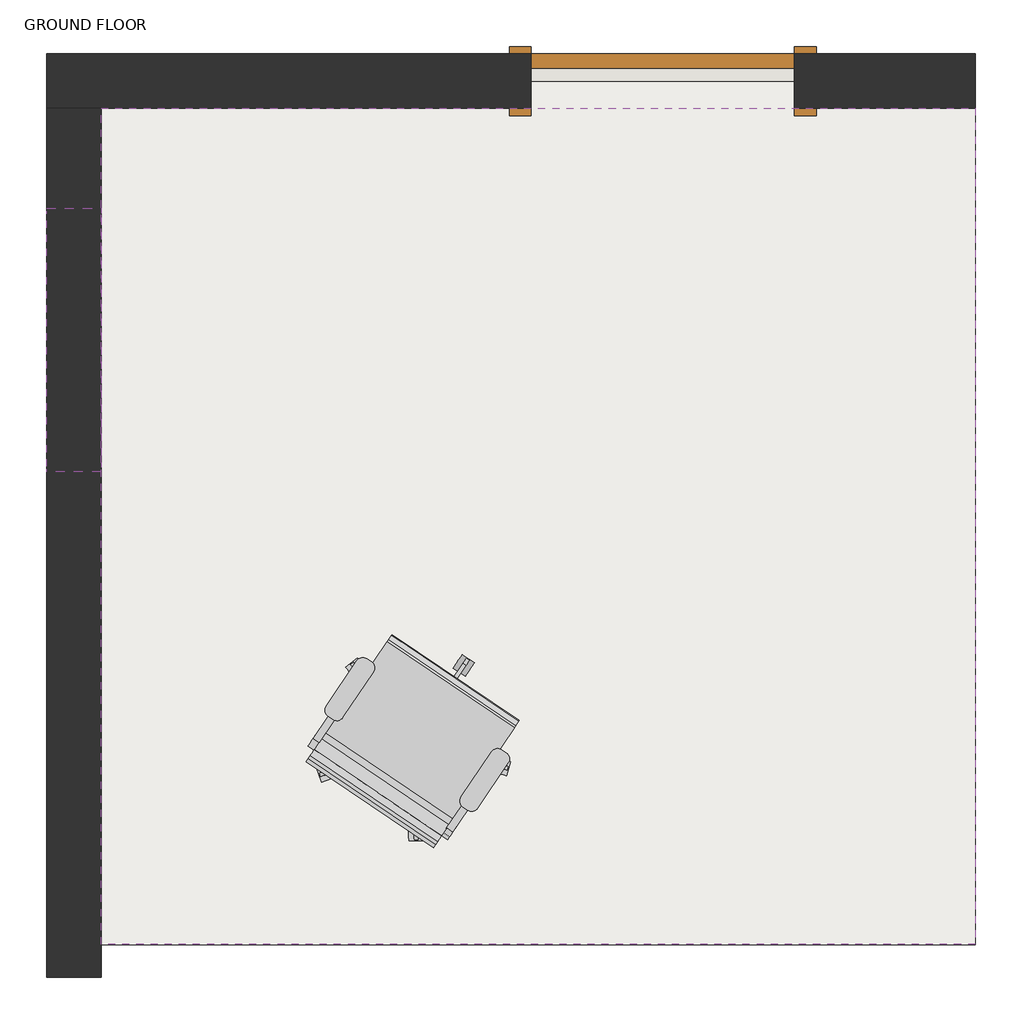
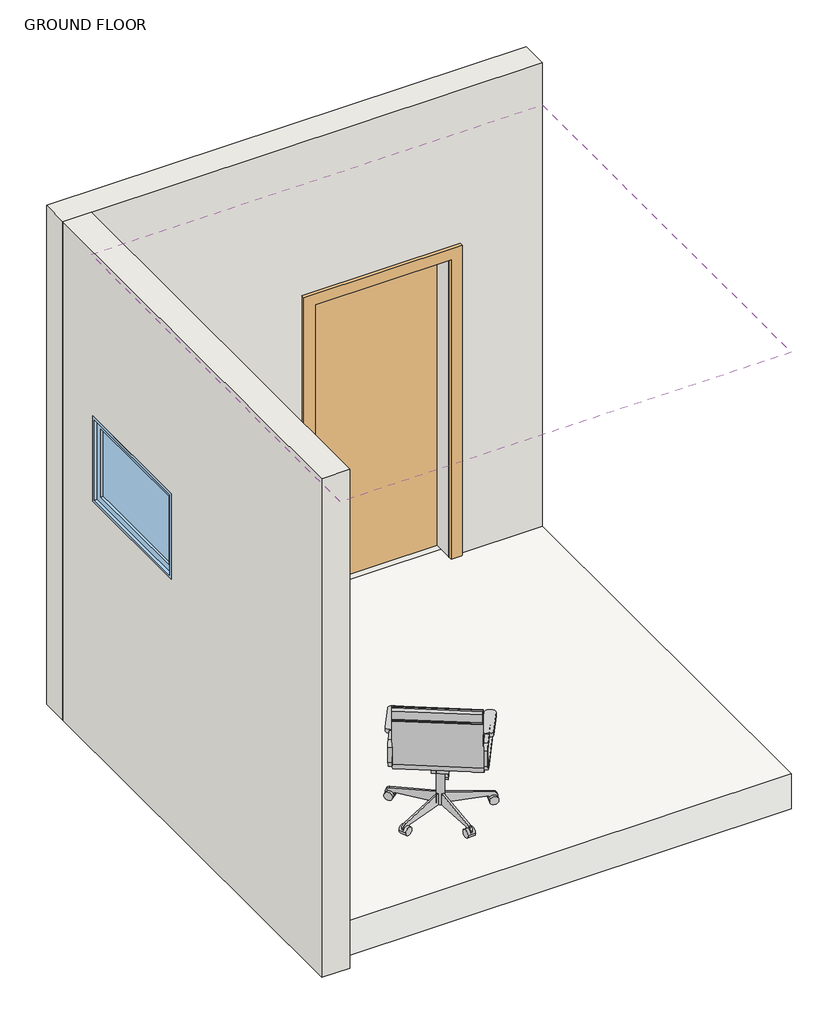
# One storey, incomplete: 2 walls, 1 covering, 1 door, 1 furniture element, 1 slab, 1 window.
"""IFC4 building model written with IfcOpenShell, lengths in millimetres."""

import ifcopenshell
import ifcopenshell.guid

model = None  # the IFC model being written
_history = None  # IfcOwnerHistory: only IFC2X3 demands one
_inside = {}  # id of a spatial element -> (the spatial element, [elements in it])
_under = {}  # id of a project, library or spatial element -> (it, [spatial elements below it])
_declared = {}  # id of a project -> (the project, [libraries it declares])
_typed = {}  # id of a type object -> (the type object, [elements of that type])
_made_of = {}  # id of a material, layer set ... -> (it, [elements and type objects made of it])


def new_model(schema):
    """Start an empty IFC model of exactly this schema.

    Asked for "IFC4X3", IfcOpenShell would pick the latest addendum, in which some entities
    have other attributes; the version numbers below select the first issue.
    IFC2X3 requires an IfcOwnerHistory on every rooted entity: one is made here for all.
    """
    global model, _history
    if schema == "IFC4X3":
        model = ifcopenshell.file(schema_version=(4, 3, 0, 0))
    else:
        model = ifcopenshell.file(schema=schema)
    _inside.clear()
    _under.clear()
    _declared.clear()
    _typed.clear()
    _made_of.clear()
    _history = None
    if model.schema == "IFC2X3":
        org = make("IfcOrganization", Name="unknown")
        user = make(
            "IfcPersonAndOrganization",
            ThePerson=make("IfcPerson", FamilyName="unknown"),
            TheOrganization=org,
        )
        app = make(
            "IfcApplication",
            ApplicationDeveloper=org,
            Version="unknown",
            ApplicationFullName="unknown",
            ApplicationIdentifier="unknown",
        )
        _history = make(
            "IfcOwnerHistory",
            OwningUser=user,
            OwningApplication=app,
            ChangeAction="ADDED",
            CreationDate=0,
        )
    return model


def make(cls, **values):
    """One entity of the class cls with the attributes given. An attribute that is None is left unset."""
    return model.create_entity(
        cls, **{name: value for name, value in values.items() if value is not None}
    )


def rooted(cls, **values):
    """An entity with a GlobalId (a new one), such as an element, a storey or a relation."""
    return make(cls, GlobalId=ifcopenshell.guid.new(), OwnerHistory=_history, **values)


def si_unit(unit_type, name, prefix=None):
    """IfcSIUnit, for example si_unit("LENGTHUNIT", "METRE", prefix="MILLI")."""
    return make("IfcSIUnit", UnitType=unit_type, Prefix=prefix, Name=name)


def assignment(units):
    """IfcUnitAssignment: the units of a project."""
    return None if units is None else make("IfcUnitAssignment", Units=units)


def point(xyz):
    """IfcCartesianPoint."""
    return None if xyz is None else make("IfcCartesianPoint", Coordinates=xyz)


def direction(xyz):
    """IfcDirection."""
    return None if xyz is None else make("IfcDirection", DirectionRatios=xyz)


def frame(location, z_axis=None, x_axis=None):
    """IfcAxis2Placement3D, a coordinate frame: its origin and axes. An axis left out is left unset."""
    return make(
        "IfcAxis2Placement3D",
        Location=point(location),
        Axis=direction(z_axis),
        RefDirection=direction(x_axis),
    )


def frame_2d(location, x_axis=None):
    """IfcAxis2Placement2D, a coordinate frame in the plane: its origin and x axis."""
    return make(
        "IfcAxis2Placement2D", Location=point(location), RefDirection=direction(x_axis)
    )


def origin():
    """The frame at (0, 0, 0) with its axes left unset."""
    return frame((0.0, 0.0, 0.0))


def origin_with_axes():
    """The frame at (0, 0, 0) with the z axis (0, 0, 1) and the x axis (1, 0, 0) written out."""
    return frame((0.0, 0.0, 0.0), z_axis=(0.0, 0.0, 1.0), x_axis=(1.0, 0.0, 0.0))


def place(relative_to, where):
    """IfcLocalPlacement: puts the frame where relative to a parent placement (None: the world)."""
    return make(
        "IfcLocalPlacement", PlacementRelTo=relative_to, RelativePlacement=where
    )


def context(
    kind, dimensions, precision=None, world=None, true_north=None, identifier=None
):
    """IfcGeometricRepresentationContext, for example the 3D "Model" context."""
    return make(
        "IfcGeometricRepresentationContext",
        ContextIdentifier=identifier,
        ContextType=kind,
        CoordinateSpaceDimension=dimensions,
        Precision=precision,
        WorldCoordinateSystem=world,
        TrueNorth=true_north,
    )


def project(units=None, contexts=None):
    """IfcProject with its units and contexts."""
    return rooted(
        "IfcProject",
        Name="project",
        RepresentationContexts=contexts,
        UnitsInContext=assignment(units),
    )


def spatial(cls, under=None, at=None, **own):
    """A site, building, storey or space (cls), placed at a placement, below another one or the project."""
    s = rooted(cls, ObjectPlacement=at, **own)
    if under is not None:
        _under.setdefault(under.id(), (under, []))[1].append(s)
    return s


def polyline(points):
    """IfcPolyline through the points."""
    return make("IfcPolyline", Points=[point(p) for p in points])


def circle_curve(where, radius):
    """IfcCircle in the frame where."""
    return make("IfcCircle", Position=where, Radius=radius)


def trimmed(basis, trim1, trim2, sense, master):
    """IfcTrimmedCurve: the piece of a basis curve between two trims."""
    return make(
        "IfcTrimmedCurve",
        BasisCurve=basis,
        Trim1=trim1,
        Trim2=trim2,
        SenseAgreement=sense,
        MasterRepresentation=master,
    )


def segment(curve, same_sense, transition):
    """IfcCompositeCurveSegment."""
    return make(
        "IfcCompositeCurveSegment",
        Transition=transition,
        SameSense=same_sense,
        ParentCurve=curve,
    )


def composite_curve(segments, self_intersect=None):
    """IfcCompositeCurve: segments joined end to end."""
    return make("IfcCompositeCurve", Segments=segments, SelfIntersect=self_intersect)


def outline(outer, holes=None, kind="AREA"):
    """IfcArbitraryClosedProfileDef: a profile drawn as a closed curve; with holes, ...WithVoids."""
    if holes is None:
        return make("IfcArbitraryClosedProfileDef", ProfileType=kind, OuterCurve=outer)
    return make(
        "IfcArbitraryProfileDefWithVoids",
        ProfileType=kind,
        OuterCurve=outer,
        InnerCurves=holes,
    )


def extrude(swept, where, along, depth):
    """IfcExtrudedAreaSolid: the profile swept, set in the frame where, extruded along a direction by depth."""
    return make(
        "IfcExtrudedAreaSolid",
        SweptArea=swept,
        Position=where,
        ExtrudedDirection=direction(along),
        Depth=depth,
    )


def faces_of(points, faces, orient=None, outer=None):
    """IfcFace entities. A face is a list of loops; a loop is a list of indices into points, from 0.

    orient and outer hold one flag for each loop. By default every Orientation is true, the
    first loop of a face is its IfcFaceOuterBound and the others are IfcFaceBound.
    """
    made = []
    for i, loops in enumerate(faces):
        bounds = []
        for j, loop in enumerate(loops):
            is_outer = j == 0 if outer is None else outer[i][j]
            bounds.append(
                make(
                    "IfcFaceOuterBound" if is_outer else "IfcFaceBound",
                    Bound=make("IfcPolyLoop", Polygon=[points[k] for k in loop]),
                    Orientation=True if orient is None else orient[i][j],
                )
            )
        made.append(make("IfcFace", Bounds=bounds))
    return made


def faceted_brep(points, faces, orient=None, outer=None, voids=None):
    """IfcFacetedBrep: a solid bounded by flat faces; with voids (closed shells), ...WithVoids."""
    shared = [point(p) for p in points]
    hull = make("IfcClosedShell", CfsFaces=faces_of(shared, faces, orient, outer))
    if voids is None:
        return make("IfcFacetedBrep", Outer=hull)
    return make(
        "IfcFacetedBrepWithVoids",
        Outer=hull,
        Voids=[
            make(cls, CfsFaces=faces_of(shared, fs, o, b)) for cls, fs, o, b in voids
        ],
    )


def shape(context_of_items, identifier, shape_type, items):
    """IfcShapeRepresentation: the items that make up one representation, for example the "Body"."""
    return make(
        "IfcShapeRepresentation",
        ContextOfItems=context_of_items,
        RepresentationIdentifier=identifier,
        RepresentationType=shape_type,
        Items=items,
    )


def source(mapping_origin, context_of_items, identifier, shape_type, items):
    """IfcRepresentationMap: a shape defined once, which mapped items show again and again."""
    return make(
        "IfcRepresentationMap",
        MappingOrigin=mapping_origin,
        MappedRepresentation=shape(context_of_items, identifier, shape_type, items),
    )


def transform(
    local_origin,
    x_axis=None,
    y_axis=None,
    z_axis=None,
    scale=None,
    scale2=None,
    scale3=None,
    uniform=True,
):
    """IfcCartesianTransformationOperator3D, or its non-uniform kind. x_axis, y_axis, z_axis: its Axis1, 2, 3."""
    if uniform:
        return make(
            "IfcCartesianTransformationOperator3D",
            Axis1=direction(x_axis),
            Axis2=direction(y_axis),
            LocalOrigin=point(local_origin),
            Scale=scale,
            Axis3=direction(z_axis),
        )
    return make(
        "IfcCartesianTransformationOperator3DnonUniform",
        Axis1=direction(x_axis),
        Axis2=direction(y_axis),
        LocalOrigin=point(local_origin),
        Scale=scale,
        Axis3=direction(z_axis),
        Scale2=scale2,
        Scale3=scale3,
    )


def mapped(mapping_source, mapping_target):
    """IfcMappedItem: shows the shape of a source again, moved by a transform."""
    return make(
        "IfcMappedItem", MappingSource=mapping_source, MappingTarget=mapping_target
    )


def made_of(thing, what):
    """Note that an element or type object is made of a material, layer set ...; save() writes the relation."""
    if what is not None:
        _made_of.setdefault(what.id(), (what, []))[1].append(thing)
    return thing


def element(
    cls,
    number,
    at=None,
    inside=None,
    cuts=None,
    type_object=None,
    material=None,
    context=None,
    identifier="Body",
    shape_type=None,
    held_by="IfcProductDefinitionShape",
    body=None,
    shapes=None,
    **own,
):
    """One element of the class cls, such as IfcWall. Its Tag is "e" and its number.

    at: its placement. inside: the storey or other place that contains it. cuts: it is an
    opening in that element (IfcRelVoidsElement). A single representation is given by context,
    identifier, shape_type and body (its items); several are given by shapes. held_by: the class
    of the entity that holds the representations. save() writes the other relations.
    """
    e = rooted(cls, Tag="e%d" % number, ObjectPlacement=at, **own)
    if body is not None:
        shapes = [shape(context, identifier, shape_type, body)]
    if shapes is not None:
        e.Representation = make(held_by, Representations=shapes)
    if inside is not None:
        _inside.setdefault(inside.id(), (inside, []))[1].append(e)
    if cuts is not None:
        rooted(
            "IfcRelVoidsElement", RelatingBuildingElement=cuts, RelatedOpeningElement=e
        )
    if type_object is not None:
        _typed.setdefault(type_object.id(), (type_object, []))[1].append(e)
    return made_of(e, material)


def aggregate(whole, parts):
    """IfcRelAggregates: a whole, such as a stair, and the parts it consists of."""
    return rooted("IfcRelAggregates", RelatingObject=whole, RelatedObjects=parts)


def save(model, path):
    """Write the relations noted so far, then the file.

    IfcRelAggregates (storeys below a building ...), IfcRelContainedInSpatialStructure (elements
    in a storey), IfcRelDefinesByType, IfcRelAssociatesMaterial and IfcRelDeclares: one each for
    every whole, place, type object, material and project.
    """
    for whole, parts in _under.values():
        aggregate(whole, parts)
    for where, things in _inside.values():
        rooted(
            "IfcRelContainedInSpatialStructure",
            RelatedElements=things,
            RelatingStructure=where,
        )
    for kind, things in _typed.values():
        rooted("IfcRelDefinesByType", RelatedObjects=things, RelatingType=kind)
    for what, things in _made_of.values():
        rooted("IfcRelAssociatesMaterial", RelatedObjects=things, RelatingMaterial=what)
    for by, libraries in _declared.values():
        rooted("IfcRelDeclares", RelatingContext=by, RelatedDefinitions=libraries)
    model.write(path)


def plane_surface(at):
    """IfcPlane: the flat surface through the origin of the frame at, square to its z axis."""
    return make("IfcPlane", Position=at)


def cylinder_surface(at, radius):
    """IfcCylindricalSurface: all points at the distance radius from the z axis of the frame at."""
    return make("IfcCylindricalSurface", Position=at, Radius=radius)


def revolved_surface(curve, axis_point, axis_direction):
    """IfcSurfaceOfRevolution: the curve turned about the line through axis_point along axis_direction."""
    return make(
        "IfcSurfaceOfRevolution",
        SweptCurve=make("IfcArbitraryOpenProfileDef", ProfileType="CURVE", Curve=curve),
        AxisPosition=make("IfcAxis1Placement", Location=point(axis_point), Axis=direction(axis_direction)),
    )


def advanced_brep(points, edges, surfaces, faces):
    """IfcAdvancedBrep: a solid bounded by faces that lie on surfaces and meet in shared edges.

    An edge is (start, end): straight between two places in points (the first is 0);
    or (start, end, curve); or (start, end, curve, False) where it runs against its curve.
    A face is (place in surfaces, loops), or (place, loops, False) where it looks against
    its surface's normal. A loop lists edges by number (the first is 1), with a minus sign
    where the edge is run from its end to its start. The first loop is the outer one.
    """
    corners = [point(p) for p in points]
    vertices = [make("IfcVertexPoint", VertexGeometry=c) for c in corners]
    made = []
    for start, end, *more in edges:
        made.append(
            make(
                "IfcEdgeCurve",
                EdgeStart=vertices[start],
                EdgeEnd=vertices[end],
                EdgeGeometry=more[0] if more else make("IfcPolyline", Points=[corners[start], corners[end]]),
                SameSense=more[1] if len(more) > 1 else True,
            )
        )
    hull = []
    for where, loops, *sense in faces:
        bounds = []
        for j, loop in enumerate(loops):
            ring = [make("IfcOrientedEdge", EdgeElement=made[abs(k) - 1], Orientation=k > 0) for k in loop]
            bounds.append(
                make(
                    "IfcFaceOuterBound" if j == 0 else "IfcFaceBound",
                    Bound=make("IfcEdgeLoop", EdgeList=ring),
                    Orientation=True,
                )
            )
        hull.append(make("IfcAdvancedFace", Bounds=bounds, FaceSurface=surfaces[where], SameSense=sense[0] if sense else True))
    return make("IfcAdvancedBrep", Outer=make("IfcClosedShell", CfsFaces=hull))


def m_single_flush_0915_x_2134mm_f5238887(model_context):
    return source(origin(), model_context, "Body", "SweptSolid", [
        extrude(outline(polyline([(2210.0, -533.5), (0.0, -533.5), (0.0, -457.5), (2134.0, -457.5), (2134.0, 457.5), (0.0, 457.5), (0.0, 533.5), (2210.0, 533.5), (2210.0, -533.5)])), frame((0.0, 95.0, 0.0), z_axis=(0.0, 1.0, 0.0), x_axis=(0.0, 0.0, 1.0)), (0.0, 0.0, 1.0), 25.0),
        extrude(outline(polyline([(2210.0, 533.5), (2210.0, -533.5), (0.0, -533.5), (0.0, -457.5), (2134.0, -457.5), (2134.0, 457.5), (0.0, 457.5), (0.0, 533.5), (2210.0, 533.5)])), frame((0.0, -120.0, 0.0), z_axis=(0.0, 1.0, 0.0), x_axis=(0.0, 0.0, 1.0)), (0.0, 0.0, 1.0), 25.0),
        extrude(outline(polyline([(457.5, 44.0), (-457.5, 44.0), (-457.5, 95.0), (457.5, 95.0), (457.5, 44.0)])), origin_with_axes(), (0.0, 0.0, 1.0), 2134.0),
    ])


def chair_task_arms_chair_task_arms_8395c10b(model_context):
    return source(origin(), model_context, "Body", "SolidModel", [
        extrude(outline(composite_curve([segment(trimmed(circle_curve(frame_2d((433.0908197, 48.8028048)), 25.4), [point((433.0908197, 74.2028048))], [point((458.4908197, 48.8028048))], False, "CARTESIAN"), True, "CONTINUOUS"), segment(polyline([(458.4908197, 48.8028048), (458.4908197, -141.6319091)]), True, "CONTINUOUS"), segment(trimmed(circle_curve(frame_2d((433.0908197, -141.6319091)), 25.4), [point((458.4908197, -141.6319091))], [point((433.0908197, -167.0319091))], False, "CARTESIAN"), True, "CONTINUOUS"), segment(polyline([(433.0908197, -167.0319091), (414.0408197, -167.0319091)]), True, "CONTINUOUS"), segment(trimmed(circle_curve(frame_2d((414.0408197, -141.6319091)), 25.4), [point((414.0408197, -167.0319091))], [point((388.6408197, -141.6319091))], False, "CARTESIAN"), True, "CONTINUOUS"), segment(polyline([(388.6408197, -141.6319091), (388.6408197, 48.8028048)]), True, "CONTINUOUS"), segment(trimmed(circle_curve(frame_2d((414.0408197, 48.8028048)), 25.4), [point((388.6408197, 48.8028048))], [point((414.0408197, 74.2028048))], False, "CARTESIAN"), True, "CONTINUOUS"), segment(polyline([(414.0408197, 74.2028048), (433.0908197, 74.2028048)]), True, "CONTINUOUS")], self_intersect=False)), frame((0.0, 0.0, 596.9), z_axis=(0.0, 0.0, 1.0), x_axis=(1.0, 0.0, 0.0)), (0.0, 0.0, 1.0), 25.4),
        extrude(outline(composite_curve([segment(trimmed(circle_curve(frame_2d((-132.0591803, 47.7575984)), 25.4), [point((-132.0591803, 73.1575984))], [point((-106.6591803, 47.7575984))], False, "CARTESIAN"), True, "CONTINUOUS"), segment(polyline([(-106.6591803, 47.7575984), (-106.6591803, -141.6319091)]), True, "CONTINUOUS"), segment(trimmed(circle_curve(frame_2d((-132.0591803, -141.6319091)), 25.4), [point((-106.6591803, -141.6319091))], [point((-132.0591803, -167.0319091))], False, "CARTESIAN"), True, "CONTINUOUS"), segment(polyline([(-132.0591803, -167.0319091), (-151.1091803, -167.0319091)]), True, "CONTINUOUS"), segment(trimmed(circle_curve(frame_2d((-151.1091803, -141.6319091)), 25.4), [point((-151.1091803, -167.0319091))], [point((-176.5091803, -141.6319091))], False, "CARTESIAN"), True, "CONTINUOUS"), segment(polyline([(-176.5091803, -141.6319091), (-176.5091803, 47.7575984)]), True, "CONTINUOUS"), segment(trimmed(circle_curve(frame_2d((-151.1091803, 47.7575984)), 25.4), [point((-176.5091803, 47.7575984))], [point((-151.1091803, 73.1575984))], False, "CARTESIAN"), True, "CONTINUOUS"), segment(polyline([(-151.1091803, 73.1575984), (-132.0591803, 73.1575984)]), True, "CONTINUOUS")], self_intersect=False)), frame((0.0, 0.0, 596.9), z_axis=(0.0, 0.0, 1.0), x_axis=(1.0, 0.0, 0.0)), (0.0, 0.0, 1.0), 25.4),
        advanced_brep(
        [(-151.1091803, -167.0319091, 412.75), (-125.7091803, -167.0319091, 412.75), (-125.7091803, -167.0319091, 425.45), (-151.1091803, -167.0319091, 425.45), (-151.1091803, 126.2388651, 425.45), (-151.1091803, 126.2388651, 412.75), (-125.7091803, 126.2388651, 425.45), (-125.7091803, 126.2388651, 412.75), (-151.1091803, 170.3844094, 464.7064065), (-151.1091803, 182.9974221, 463.2225227), (-125.7091803, 170.3844094, 464.7064065), (-125.7091803, 182.9974221, 463.2225227), (-151.1091803, 184.1806174, 581.9741742), (-151.1091803, 196.7936301, 580.4902904), (-125.7091803, 184.1806174, 581.9741742), (-125.7091803, 196.7936301, 580.4902904), (-151.1091803, 165.2610984, 603.25), (-151.1091803, 165.2610984, 615.95), (-125.7091803, 165.2610984, 603.25), (-125.7091803, 165.2610984, 615.95), (-151.1091803, -18.9459016, 615.95), (-151.1091803, -18.9459016, 603.25), (-125.7091803, -18.9459016, 603.25), (-125.7091803, -18.9459016, 615.95)],
        [
            (0, 1),
            (1, 2),
            (2, 3),
            (3, 0),
            (3, 4),
            (4, 5),
            (5, 0),
            (2, 6),
            (6, 4),
            (1, 7),
            (7, 6),
            (5, 7),
            (8, 9),
            (9, 5, circle_curve(frame((-151.1091803, 126.2388651, 469.9), z_axis=(-1.0, 0.0, 0.0), x_axis=(0.0, 0.0, -1.0)), 57.15)),
            (4, 8, circle_curve(frame((-151.1091803, 126.2388651, 469.9), z_axis=(1.0, 0.0, 0.0), x_axis=(0.0, 0.0, -1.0)), 44.45)),
            (10, 8),
            (6, 10, circle_curve(frame((-125.7091803, 126.2388651, 469.9), z_axis=(1.0, 0.0, 0.0), x_axis=(0.0, 0.0, -1.0)), 44.45)),
            (11, 10),
            (7, 11, circle_curve(frame((-125.7091803, 126.2388651, 469.9), z_axis=(1.0, 0.0, 0.0), x_axis=(0.0, 0.0, -1.0)), 57.15)),
            (9, 11),
            (8, 12),
            (12, 13),
            (13, 9),
            (10, 14),
            (14, 12),
            (11, 15),
            (15, 14),
            (13, 15),
            (16, 17),
            (17, 13, circle_curve(frame((-151.1091803, 165.2610984, 584.2), z_axis=(-1.0, 0.0, 0.0), x_axis=(0.0, 0.9931506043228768, -0.11684124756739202)), 31.75)),
            (12, 16, circle_curve(frame((-151.1091803, 165.2610984, 584.2), z_axis=(1.0, 0.0, 0.0), x_axis=(0.0, 0.9931506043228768, -0.11684124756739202)), 19.05)),
            (18, 16),
            (14, 18, circle_curve(frame((-125.7091803, 165.2610984, 584.2), z_axis=(1.0, 0.0, 0.0), x_axis=(0.0, 0.9931506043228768, -0.11684124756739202)), 19.05)),
            (19, 18),
            (15, 19, circle_curve(frame((-125.7091803, 165.2610984, 584.2), z_axis=(1.0, 0.0, 0.0), x_axis=(0.0, 0.9931506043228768, -0.11684124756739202)), 31.75)),
            (17, 19),
            (20, 21),
            (21, 22),
            (22, 23),
            (23, 20),
            (16, 21),
            (20, 17),
            (18, 22),
            (19, 23),
        ],
        [
            plane_surface(frame((-152.608212, -167.0319091, 419.1), z_axis=(0.0, -1.0, 0.0), x_axis=(0.0, 0.0, -1.0))),
            plane_surface(frame((-151.1091803, -167.0319091, 412.75), z_axis=(-1.0, 0.0, 0.0), x_axis=(0.0, 1.0, 0.0))),
            plane_surface(frame((-151.1091803, -167.0319091, 425.45), z_axis=(0.0, 0.0, 1.0), x_axis=(0.0, 1.0, 0.0))),
            plane_surface(frame((-125.7091803, -167.0319091, 425.45), z_axis=(1.0, 0.0, 0.0), x_axis=(0.0, 1.0, 0.0))),
            plane_surface(frame((-125.7091803, -167.0319091, 412.75), z_axis=(0.0, 0.0, -1.0), x_axis=(0.0, 1.0, 0.0))),
            plane_surface(frame((-151.1091803, 126.2388651, 469.9), z_axis=(-1.0, 0.0, 0.0), x_axis=(0.0, 0.0, -1.0))),
            revolved_surface(polyline([(-151.1091803, 126.2388651, 425.45), (-125.7091803, 126.2388651, 425.45)]), (-138.4091803, 126.2388651, 469.9), (-1.0, 0.0, 0.0)),
            plane_surface(frame((-125.7091803, 126.2388651, 469.9), z_axis=(1.0, 0.0, 0.0), x_axis=(0.0, 0.0, -1.0))),
            cylinder_surface(frame((-138.4091803, 126.2388651, 469.9), z_axis=(-1.0, 0.0, 0.0), x_axis=(0.0, 0.0, -1.0)), 57.15),
            plane_surface(frame((-151.1091803, 182.9974221, 463.2225227), z_axis=(-1.0, 0.0, 0.0), x_axis=(0.0, 0.1168412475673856, 0.9931506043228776))),
            plane_surface(frame((-151.1091803, 170.3844094, 464.7064065), z_axis=(0.0, -0.9931506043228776, 0.1168412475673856), x_axis=(0.0, 0.1168412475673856, 0.9931506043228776))),
            plane_surface(frame((-125.7091803, 170.3844094, 464.7064065), z_axis=(1.0, 0.0, 0.0), x_axis=(0.0, 0.1168412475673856, 0.9931506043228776))),
            plane_surface(frame((-125.7091803, 182.9974221, 463.2225227), z_axis=(0.0, 0.9931506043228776, -0.1168412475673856), x_axis=(0.0, 0.1168412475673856, 0.9931506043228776))),
            plane_surface(frame((-151.1091803, 165.2610984, 584.2), z_axis=(-1.0, 0.0, 0.0), x_axis=(0.0, 0.9931506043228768, -0.11684124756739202))),
            revolved_surface(polyline([(-151.1091803, 184.1806174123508, 581.9741742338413), (-125.7091803, 184.1806174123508, 581.9741742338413)]), (-138.4091803, 165.2610984, 584.2), (-1.0, 0.0, 0.0)),
            plane_surface(frame((-125.7091803, 165.2610984, 584.2), z_axis=(1.0, 0.0, 0.0), x_axis=(0.0, 0.9931506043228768, -0.11684124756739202))),
            cylinder_surface(frame((-138.4091803, 165.2610984, 584.2), z_axis=(-1.0, 0.0, 0.0), x_axis=(0.0, 0.9931506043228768, -0.11684124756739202)), 31.75),
            plane_surface(frame((-152.608212, -18.9459016, 609.6), z_axis=(0.0, -1.0, 0.0), x_axis=(0.0, 0.0, 1.0))),
            plane_surface(frame((-151.1091803, 165.2610984, 615.95), z_axis=(-1.0, 0.0, 0.0), x_axis=(0.0, -1.0, 0.0))),
            plane_surface(frame((-151.1091803, 165.2610984, 603.25), z_axis=(0.0, 0.0, -1.0), x_axis=(0.0, -1.0, 0.0))),
            plane_surface(frame((-125.7091803, 165.2610984, 603.25), z_axis=(1.0, 0.0, 0.0), x_axis=(0.0, -1.0, 0.0))),
            plane_surface(frame((-125.7091803, 165.2610984, 615.95), z_axis=(0.0, 0.0, 1.0), x_axis=(0.0, -1.0, 0.0))),
        ],
        [
            (0, [[1, 2, 3, 4]]),
            (1, [[5, 6, 7, -4]]),
            (2, [[8, 9, -5, -3]]),
            (3, [[10, 11, -8, -2]]),
            (4, [[-7, 12, -10, -1]]),
            (5, [[13, 14, -6, 15]]),
            (6, [[16, -15, -9, 17]]),
            (7, [[18, -17, -11, 19]]),
            (8, [[20, -19, -12, -14]]),
            (9, [[21, 22, 23, -13]]),
            (10, [[24, 25, -21, -16]]),
            (11, [[26, 27, -24, -18]]),
            (12, [[-23, 28, -26, -20]]),
            (13, [[29, 30, -22, 31]]),
            (14, [[32, -31, -25, 33]]),
            (15, [[34, -33, -27, 35]]),
            (16, [[36, -35, -28, -30]]),
            (17, [[37, 38, 39, 40]]),
            (18, [[41, -37, 42, -29]]),
            (19, [[43, -38, -41, -32]]),
            (20, [[44, -39, -43, -34]]),
            (21, [[-42, -40, -44, -36]]),
        ],
    ),
        advanced_brep(
        [(433.0908197, -167.0319091, 425.45), (407.6908197, -167.0319091, 425.45), (407.6908197, -167.0319091, 412.75), (433.0908197, -167.0319091, 412.75), (433.0908197, 128.329278, 412.75), (433.0908197, 128.329278, 425.45), (407.6908197, 128.329278, 412.75), (407.6908197, 128.329278, 425.45), (433.0908197, 185.0878351, 463.2225227), (433.0908197, 172.4748224, 464.7064065), (407.6908197, 185.0878351, 463.2225227), (407.6908197, 172.4748224, 464.7064065), (433.0908197, 198.884043, 580.4902904), (433.0908197, 186.2710303, 581.9741742), (407.6908197, 198.884043, 580.4902904), (407.6908197, 186.2710303, 581.9741742), (433.0908197, 167.3515113, 615.95), (433.0908197, 167.3515113, 603.25), (407.6908197, 167.3515113, 615.95), (407.6908197, 167.3515113, 603.25), (433.0908197, -18.9459016, 603.25), (433.0908197, -18.9459016, 615.95), (407.6908197, -18.9459016, 615.95), (407.6908197, -18.9459016, 603.25)],
        [
            (0, 1),
            (1, 2),
            (2, 3),
            (3, 0),
            (3, 4),
            (4, 5),
            (5, 0),
            (2, 6),
            (6, 4),
            (1, 7),
            (7, 6),
            (5, 7),
            (8, 9),
            (9, 5, circle_curve(frame((433.0908197, 128.329278, 469.9), z_axis=(-1.0, 0.0, 0.0), x_axis=(0.0, 0.0, -1.0)), 44.45)),
            (4, 8, circle_curve(frame((433.0908197, 128.329278, 469.9), z_axis=(1.0, 0.0, 0.0), x_axis=(0.0, 0.0, -1.0)), 57.15)),
            (10, 8),
            (6, 10, circle_curve(frame((407.6908197, 128.329278, 469.9), z_axis=(1.0, 0.0, 0.0), x_axis=(0.0, 0.0, -1.0)), 57.15)),
            (11, 10),
            (7, 11, circle_curve(frame((407.6908197, 128.329278, 469.9), z_axis=(1.0, 0.0, 0.0), x_axis=(0.0, 0.0, -1.0)), 44.45)),
            (9, 11),
            (8, 12),
            (12, 13),
            (13, 9),
            (10, 14),
            (14, 12),
            (11, 15),
            (15, 14),
            (13, 15),
            (16, 17),
            (17, 13, circle_curve(frame((433.0908197, 167.3515113, 584.2), z_axis=(-1.0, 0.0, 0.0), x_axis=(0.0, 0.9931506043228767, -0.1168412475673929)), 19.05)),
            (12, 16, circle_curve(frame((433.0908197, 167.3515113, 584.2), z_axis=(1.0, 0.0, 0.0), x_axis=(0.0, 0.9931506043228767, -0.1168412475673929)), 31.75)),
            (18, 16),
            (14, 18, circle_curve(frame((407.6908197, 167.3515113, 584.2), z_axis=(1.0, 0.0, 0.0), x_axis=(0.0, 0.9931506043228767, -0.1168412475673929)), 31.75)),
            (19, 18),
            (15, 19, circle_curve(frame((407.6908197, 167.3515113, 584.2), z_axis=(1.0, 0.0, 0.0), x_axis=(0.0, 0.9931506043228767, -0.1168412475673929)), 19.05)),
            (17, 19),
            (20, 21),
            (21, 22),
            (22, 23),
            (23, 20),
            (16, 21),
            (20, 17),
            (18, 22),
            (19, 23),
        ],
        [
            plane_surface(frame((406.191788, -167.0319091, 419.1), z_axis=(0.0, -1.0, 0.0), x_axis=(0.0, 0.0, -1.0))),
            plane_surface(frame((433.0908197, -167.0319091, 425.45), z_axis=(1.0, 0.0, 0.0), x_axis=(0.0, 1.0, 0.0))),
            plane_surface(frame((433.0908197, -167.0319091, 412.75), z_axis=(0.0, 0.0, -1.0), x_axis=(0.0, 1.0, 0.0))),
            plane_surface(frame((407.6908197, -167.0319091, 412.75), z_axis=(-1.0, 0.0, 0.0), x_axis=(0.0, 1.0, 0.0))),
            plane_surface(frame((407.6908197, -167.0319091, 425.45), z_axis=(0.0, 0.0, 1.0), x_axis=(0.0, 1.0, 0.0))),
            plane_surface(frame((433.0908197, 128.329278, 469.9), z_axis=(1.0, 0.0, 0.0), x_axis=(0.0, 0.0, -1.0))),
            cylinder_surface(frame((420.3908197, 128.329278, 469.9), z_axis=(-1.0, 0.0, 0.0), x_axis=(0.0, 0.0, -1.0)), 57.15),
            plane_surface(frame((407.6908197, 128.329278, 469.9), z_axis=(-1.0, 0.0, 0.0), x_axis=(0.0, 0.0, -1.0))),
            revolved_surface(polyline([(407.6908197, 128.329278, 425.45), (433.0908197, 128.329278, 425.45)]), (420.3908197, 128.329278, 469.9), (-1.0, 0.0, 0.0)),
            plane_surface(frame((433.0908197, 172.4748224, 464.7064065), z_axis=(1.0, 0.0, 0.0), x_axis=(0.0, 0.11684124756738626, 0.9931506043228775))),
            plane_surface(frame((433.0908197, 185.0878351, 463.2225227), z_axis=(0.0, 0.9931506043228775, -0.11684124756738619), x_axis=(0.0, 0.11684124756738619, 0.9931506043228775))),
            plane_surface(frame((407.6908197, 185.0878351, 463.2225227), z_axis=(-1.0, 0.0, 0.0), x_axis=(0.0, 0.11684124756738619, 0.9931506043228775))),
            plane_surface(frame((407.6908197, 172.4748224, 464.7064065), z_axis=(0.0, -0.9931506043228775, 0.11684124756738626), x_axis=(0.0, 0.11684124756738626, 0.9931506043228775))),
            plane_surface(frame((433.0908197, 167.3515113, 584.2), z_axis=(1.0, 0.0, 0.0), x_axis=(0.0, 0.9931506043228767, -0.1168412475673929))),
            cylinder_surface(frame((420.3908197, 167.3515113, 584.2), z_axis=(-1.0, 0.0, 0.0), x_axis=(0.0, 0.9931506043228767, -0.1168412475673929)), 31.75),
            plane_surface(frame((407.6908197, 167.3515113, 584.2), z_axis=(-1.0, 0.0, 0.0), x_axis=(0.0, 0.9931506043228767, -0.1168412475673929))),
            revolved_surface(polyline([(407.6908197, 186.2710303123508, 581.9741742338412), (433.0908197, 186.2710303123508, 581.9741742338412)]), (420.3908197, 167.3515113, 584.2), (-1.0, 0.0, 0.0)),
            plane_surface(frame((406.191788, -18.9459016, 609.6), z_axis=(0.0, -1.0, 0.0), x_axis=(0.0, 0.0, 1.0))),
            plane_surface(frame((433.0908197, 167.3515113, 603.25), z_axis=(1.0, 0.0, 0.0), x_axis=(0.0, -1.0, 0.0))),
            plane_surface(frame((433.0908197, 167.3515113, 615.95), z_axis=(0.0, 0.0, 1.0), x_axis=(0.0, -1.0, 0.0))),
            plane_surface(frame((407.6908197, 167.3515113, 615.95), z_axis=(-1.0, 0.0, 0.0), x_axis=(0.0, -1.0, 0.0))),
            plane_surface(frame((407.6908197, 167.3515113, 603.25), z_axis=(0.0, 0.0, -1.0), x_axis=(0.0, -1.0, 0.0))),
        ],
        [
            (0, [[1, 2, 3, 4]]),
            (1, [[5, 6, 7, -4]]),
            (2, [[8, 9, -5, -3]]),
            (3, [[10, 11, -8, -2]]),
            (4, [[-7, 12, -10, -1]]),
            (5, [[13, 14, -6, 15]]),
            (6, [[16, -15, -9, 17]]),
            (7, [[18, -17, -11, 19]]),
            (8, [[20, -19, -12, -14]]),
            (9, [[21, 22, 23, -13]]),
            (10, [[24, 25, -21, -16]]),
            (11, [[26, 27, -24, -18]]),
            (12, [[-23, 28, -26, -20]]),
            (13, [[29, 30, -22, 31]]),
            (14, [[32, -31, -25, 33]]),
            (15, [[34, -33, -27, 35]]),
            (16, [[36, -35, -28, -30]]),
            (17, [[37, 38, 39, 40]]),
            (18, [[41, -37, 42, -29]]),
            (19, [[43, -38, -41, -32]]),
            (20, [[44, -39, -43, -34]]),
            (21, [[-42, -40, -44, -36]]),
        ],
    ),
        extrude(outline(composite_curve([segment(trimmed(circle_curve(frame_2d((140.9908197, -18.9459016)), 25.4), [point((115.5908197, -18.9459016))], [point((166.3908197, -18.9459016))], False, "CARTESIAN"), True, "CONTINUOUS"), segment(trimmed(circle_curve(frame_2d((140.9908197, -18.9459016)), 25.4), [point((166.3908197, -18.9459016))], [point((115.5908197, -18.9459016))], False, "CARTESIAN"), True, "CONTINUOUS")], self_intersect=False)), frame((0.0, 0.0, 53.5835944), z_axis=(0.0, 0.0, 1.0), x_axis=(1.0, 0.0, 0.0)), (0.0, 0.0, 1.0), 330.5914056),
        extrude(outline(composite_curve([segment(trimmed(circle_curve(frame_2d((0.0, 28.2002728)), 28.2002727), [point((0.0, 56.4005455))], [point((0.0, 0.0))], False, "CARTESIAN"), True, "CONTINUOUS"), segment(trimmed(circle_curve(frame_2d((0.0, 28.2002728)), 28.2002727), [point((0.0, 0.0))], [point((0.0, 56.4005455))], False, "CARTESIAN"), True, "CONTINUOUS")], self_intersect=False)), frame((461.9222851, -149.9299964, 28.1835944), z_axis=(0.3090169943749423, 0.9510565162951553, 0.0), x_axis=(0.0, 0.0, -1.0)), (0.0, 0.0, 1.0), 50.8),
        extrude(outline(composite_curve([segment(polyline([(25.4, 0.0), (0.0, 0.0), (0.0, 50.8), (24.303053, 50.8)]), True, "CONTINUOUS"), segment(trimmed(circle_curve(frame_2d((24.303053, 25.4)), 25.4), [point((24.303053, 50.8))], [point((49.3171699, 29.8106636))], False, "CARTESIAN"), True, "CONTINUOUS"), segment(polyline([(49.3171699, 29.8106636), (101.6, -266.7), (101.6, -292.1), (25.4, -292.1), (25.4, 0.0)]), True, "CONTINUOUS")], self_intersect=False)), frame((416.8321702, -115.2489746, 28.1835944), z_axis=(0.3090169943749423, 0.9510565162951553, 0.0), x_axis=(0.0, 0.0, 1.0)), (0.0, 0.0, 1.0), 12.7),
        extrude(outline(composite_curve([segment(trimmed(circle_curve(frame_2d((0.0, 28.2002726)), 28.2002727), [point((0.0, 56.4005454))], [point((0.0, 0.0))], False, "CARTESIAN"), True, "CONTINUOUS"), segment(trimmed(circle_curve(frame_2d((0.0, 28.2002726)), 28.2002727), [point((0.0, 0.0))], [point((0.0, 56.4005454))], False, "CARTESIAN"), True, "CONTINUOUS")], self_intersect=False)), frame((364.7373733, 245.8017485, 28.1835944), z_axis=(-0.8090169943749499, 0.5877852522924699, 0.0), x_axis=(0.0, 0.0, -1.0)), (0.0, 0.0, 1.0), 50.8),
        extrude(outline(composite_curve([segment(polyline([(25.4, 0.0), (0.0, 0.0), (0.0, 50.8), (24.303053, 50.8)]), True, "CONTINUOUS"), segment(trimmed(circle_curve(frame_2d((24.303053, 25.3999999)), 25.4), [point((24.303053, 50.8))], [point((49.3171699, 29.8106637))], False, "CARTESIAN"), True, "CONTINUOUS"), segment(polyline([(49.3171699, 29.8106637), (101.6, -266.7), (101.6, -292.1), (25.4, -292.1), (25.4, 0.0)]), True, "CONTINUOUS")], self_intersect=False)), frame((317.8201498, 213.6355261, 28.1835944), z_axis=(-0.8090169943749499, 0.5877852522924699, 0.0), x_axis=(0.0, 0.0, 1.0)), (0.0, 0.0, 1.0), 12.7),
        extrude(outline(composite_curve([segment(trimmed(circle_curve(frame_2d((0.0, 28.2002726)), 28.2002727), [point((0.0, 56.4005454))], [point((0.0, 0.0))], False, "CARTESIAN"), True, "CONTINUOUS"), segment(trimmed(circle_curve(frame_2d((0.0, 28.2002726)), 28.2002727), [point((0.0, 0.0))], [point((0.0, 56.4005454))], False, "CARTESIAN"), True, "CONTINUOUS")], self_intersect=False)), frame((-82.755734, 245.8017485, 28.1835944), z_axis=(0.8090169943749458, 0.5877852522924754, 0.0), x_axis=(0.0, 0.0, 1.0)), (0.0, 0.0, 1.0), 50.8),
        extrude(outline(composite_curve([segment(polyline([(-25.4, 0.0), (-25.4, -292.1), (-101.6, -292.1), (-101.6, -266.6999999), (-49.3171699, 29.8106637)]), True, "CONTINUOUS"), segment(trimmed(circle_curve(frame_2d((-24.303053, 25.3999999)), 25.4), [point((-49.3171699, 29.8106637))], [point((-24.303053, 50.8))], False, "CARTESIAN"), True, "CONTINUOUS"), segment(polyline([(-24.303053, 50.8), (0.0, 50.8), (0.0, 0.0), (-25.4, 0.0)]), True, "CONTINUOUS")], self_intersect=False)), frame((-35.8385104, 213.6355261, 28.1835944), z_axis=(0.8090169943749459, 0.5877852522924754, 0.0), x_axis=(0.0, 0.0, -1.0)), (0.0, 0.0, 1.0), 12.7),
        extrude(outline(composite_curve([segment(trimmed(circle_curve(frame_2d((0.0, 28.2002727)), 28.2002727), [point((0.0, 56.4005454))], [point((0.0, 0.0))], False, "CARTESIAN"), True, "CONTINUOUS"), segment(trimmed(circle_curve(frame_2d((0.0, 28.2002727)), 28.2002727), [point((0.0, 0.0))], [point((0.0, 56.4005454))], False, "CARTESIAN"), True, "CONTINUOUS")], self_intersect=False)), frame((-179.9406457, -149.9299964, 28.1835944), z_axis=(-0.3090169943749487, 0.9510565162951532, 0.0), x_axis=(0.0, 0.0, 1.0)), (0.0, 0.0, 1.0), 50.8),
        extrude(outline(composite_curve([segment(polyline([(-25.4, 0.0), (-25.4, -292.1), (-101.6, -292.1), (-101.6, -266.7), (-49.3171699, 29.8106637)]), True, "CONTINUOUS"), segment(trimmed(circle_curve(frame_2d((-24.303053, 25.4)), 25.4), [point((-49.3171699, 29.8106637))], [point((-24.303053, 50.8000001))], False, "CARTESIAN"), True, "CONTINUOUS"), segment(polyline([(-24.303053, 50.8000001), (0.0, 50.8000001), (0.0, 0.0), (-25.4, 0.0)]), True, "CONTINUOUS")], self_intersect=False)), frame((-134.8505308, -115.2489746, 28.1835944), z_axis=(-0.3090169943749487, 0.9510565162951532, 0.0), x_axis=(0.0, 0.0, -1.0)), (0.0, 0.0, 1.0), 12.7),
        extrude(outline(composite_curve([segment(trimmed(circle_curve(frame_2d((-336.4459016, 28.1835944)), 28.2002727), [point((-308.2456289, 28.1835944))], [point((-364.6461744, 28.1835944))], False, "CARTESIAN"), True, "CONTINUOUS"), segment(trimmed(circle_curve(frame_2d((-336.4459016, 28.1835944)), 28.2002727), [point((-364.6461744, 28.1835944))], [point((-308.2456289, 28.1835944))], False, "CARTESIAN"), True, "CONTINUOUS")], self_intersect=False)), frame((115.5908197, 0.0, 0.0), z_axis=(1.0, 0.0, 0.0), x_axis=(0.0, 1.0, 0.0)), (0.0, 0.0, 1.0), 50.8),
        extrude(outline(composite_curve([segment(polyline([(-311.0459016, 53.5835944), (-311.0459016, 28.1835944), (-361.8459016, 28.1835944), (-361.8459016, 52.4866474)]), True, "CONTINUOUS"), segment(trimmed(circle_curve(frame_2d((-336.4459016, 52.4866474)), 25.4), [point((-361.8459016, 52.4866474))], [point((-340.8565654, 77.5007643))], False, "CARTESIAN"), True, "CONTINUOUS"), segment(polyline([(-340.8565654, 77.5007643), (-44.3459016, 129.7835944), (-18.9459016, 129.7835944), (-18.9459016, 53.5835944), (-311.0459016, 53.5835944)]), True, "CONTINUOUS")], self_intersect=False)), frame((134.6408197, 0.0, 0.0), z_axis=(1.0, 0.0, 0.0), x_axis=(0.0, 1.0, 0.0)), (0.0, 0.0, 1.0), 12.7),
        extrude(outline(polyline([(-69.7459016, 383.7835944), (19.1540984, 383.7835944), (19.1540984, 283.0954134), (-18.9459016, 283.0954134), (-69.7459016, 371.0835944), (-69.7459016, 383.7835944)])), frame((90.1908197, 0.0, 0.0), z_axis=(1.0, 0.0, 0.0), x_axis=(0.0, 1.0, 0.0)), (0.0, 0.0, 1.0), 101.6),
        extrude(outline(composite_curve([segment(trimmed(circle_curve(frame_2d((126.2050455, 482.6)), 25.4), [point((126.2050455, 457.2))], [point((151.4310708, 479.6322323))], True, "CARTESIAN"), True, "CONTINUOUS"), segment(polyline([(151.4310708, 479.6322323), (196.9528985, 866.5677677)]), True, "CONTINUOUS"), segment(trimmed(circle_curve(frame_2d((222.1789239, 863.6)), 25.4), [point((196.9528985, 866.5677677))], [point((222.1789239, 889.0))], False, "CARTESIAN"), True, "CONTINUOUS"), segment(polyline([(222.1789239, 889.0), (235.0540984, 889.0)]), True, "CONTINUOUS"), segment(trimmed(circle_curve(frame_2d((235.0540984, 876.3)), 12.7), [point((235.0540984, 889.0))], [point((247.7540984, 876.3))], False, "CARTESIAN"), True, "CONTINUOUS"), segment(polyline([(247.7540984, 876.3), (247.7540984, 818.0605122)]), True, "CONTINUOUS"), segment(trimmed(circle_curve(frame_2d((235.0540984, 818.0605122)), 12.7), [point((247.7540984, 818.0605122))], [point((244.0343545, 809.0802561))], False, "CARTESIAN"), True, "CONTINUOUS"), segment(polyline([(244.0343545, 809.0802561), (222.3540984, 787.4), (182.7870738, 451.0802913)]), True, "CONTINUOUS"), segment(trimmed(circle_curve(frame_2d((107.1089978, 459.9835944)), 76.2), [point((182.7870738, 451.0802913))], [point((107.1089978, 383.7835944))], False, "CARTESIAN"), True, "CONTINUOUS"), segment(polyline([(107.1089978, 383.7835944), (-181.0744602, 383.7835944), (-209.4470284, 355.6), (-260.2470284, 355.6), (-278.2663256, 373.7401184)]), True, "CONTINUOUS"), segment(trimmed(circle_curve(frame_2d((-260.2459016, 391.6405184)), 25.4), [point((-278.2663256, 373.7401184))], [point((-285.6459016, 391.6405184))], False, "CARTESIAN"), True, "CONTINUOUS"), segment(polyline([(-285.6459016, 391.6405184), (-285.6459016, 426.6837879)]), True, "CONTINUOUS"), segment(trimmed(circle_curve(frame_2d((-272.9459016, 426.6837879)), 12.7), [point((-285.6459016, 426.6837879))], [point((-281.8961016, 435.6939999))], False, "CARTESIAN"), True, "CONTINUOUS"), segment(polyline([(-281.8961016, 435.6939999), (-263.9604301, 453.510212)]), True, "CONTINUOUS"), segment(trimmed(circle_curve(frame_2d((-255.0102301, 444.5)), 12.7), [point((-263.9604301, 453.510212))], [point((-255.0102301, 457.2))], False, "CARTESIAN"), True, "CONTINUOUS"), segment(polyline([(-255.0102301, 457.2), (126.2050455, 457.2)]), True, "CONTINUOUS")], self_intersect=False)), frame((-125.7091803, 0.0, 0.0), z_axis=(1.0, 0.0, 0.0), x_axis=(0.0, 1.0, 0.0)), (0.0, 0.0, 1.0), 533.4),
    ])


def m_fixed_0915_x_0610mm_e83bb20a(model_context):
    return source(origin(), model_context, "Body", "SweptSolid", [
        extrude(outline(polyline([(-394.5, 73.0), (394.5, 73.0), (394.5, 61.0), (-394.5, 61.0), (-394.5, 73.0)])), frame((0.0, 0.0, 978.0), z_axis=(0.0, 0.0, 1.0), x_axis=(1.0, 0.0, 0.0)), (0.0, 0.0, 1.0), 484.0),
        extrude(outline(polyline([(1506.0, -438.5), (934.0, -438.5), (934.0, 438.5), (1506.0, 438.5), (1506.0, -438.5)]), holes=[polyline([(1462.0, -394.5), (1462.0, 394.5), (978.0, 394.5), (978.0, -394.5), (1462.0, -394.5)])]), frame((0.0, 45.0, 0.0), z_axis=(0.0, 1.0, 0.0), x_axis=(0.0, 0.0, 1.0)), (0.0, 0.0, 1.0), 44.0),
        extrude(outline(polyline([(1525.0, -457.5), (915.0, -457.5), (915.0, 457.5), (1525.0, 457.5), (1525.0, -457.5)]), holes=[polyline([(1506.0, -438.5), (1506.0, 438.5), (934.0, 438.5), (934.0, -438.5), (1506.0, -438.5)])]), frame((0.0, 45.0, 0.0), z_axis=(0.0, 1.0, 0.0), x_axis=(0.0, 0.0, 1.0)), (0.0, 0.0, 1.0), 63.0),
        extrude(outline(polyline([(1525.0, -457.5), (915.0, -457.5), (915.0, 457.5), (1525.0, 457.5), (1525.0, -457.5)]), holes=[polyline([(1493.0, -425.5), (1493.0, 425.5), (947.0, 425.5), (947.0, -425.5), (1493.0, -425.5)])]), frame((0.0, -82.0, 0.0), z_axis=(0.0, 1.0, 0.0), x_axis=(0.0, 0.0, 1.0)), (0.0, 0.0, 1.0), 127.0),
    ])


model = new_model("IFC4")

# Units and contexts
model_context = context("Model", 3, world=origin())
ifc_project = project(units=[si_unit("LENGTHUNIT", "METRE", prefix="MILLI")], contexts=[model_context])

# Site, building, storey
site = spatial("IfcSite", under=ifc_project)
building = spatial("IfcBuilding", under=site)
storey = spatial("IfcBuildingStorey", under=building, Name="GROUND FLOOR", Elevation=0.0)

# Covering
placement = place(None, origin())
element("IfcCovering", 1, ObjectType="_C2.3 - 12mm FLUSHPLASTER CEILING (UNDER CONCRETE SOFFIT)", at=placement, inside=storey, context=model_context, shape_type="SweptSolid", body=[
    extrude(outline(polyline([(12539.2778372, -38850.6917524), (15577.2778372, -38850.6917524), (15577.2778372, -41755.6917524), (12539.2778372, -41755.6917524), (12539.2778372, -38850.6917524)])), frame((0.0, 0.0, 3000.0), z_axis=(0.0, 0.0, 1.0), x_axis=(1.0, 0.0, 0.0)), (0.0, 0.0, 1.0), 12.0),
])

# Door
m_single_flush_0915_x_2134mm_shape = m_single_flush_0915_x_2134mm_f5238887(model_context)
element("IfcDoor", 2, ObjectType="M_Single-Flush : 0915 x 2134mm", at=placement, inside=storey, context=model_context, shape_type="MappedRepresentation", body=[
    mapped(m_single_flush_0915_x_2134mm_shape, transform((14491.2778372, -38755.6917524, 0.0), x_axis=(1.0, 0.0, 0.0), y_axis=(0.0, 1.0, 0.0), z_axis=(0.0, 0.0, 1.0))),
])

# Furniture
chair_task_arms_chair_task_arms_shape = chair_task_arms_chair_task_arms_8395c10b(model_context)
element("IfcFurniture", 3, ObjectType="Chair-Task Arms : Chair-Task Arms", at=placement, inside=storey, context=model_context, shape_type="MappedRepresentation", body=[
    mapped(chair_task_arms_chair_task_arms_shape, transform((13728.4585015, -41143.2695122, 0.0), x_axis=(-0.8290375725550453, 0.5591929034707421, 0.0), y_axis=(-0.5591929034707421, -0.8290375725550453, 0.0), z_axis=(0.0, 0.0, 1.0))),
])

# Slab
element("IfcSlab", 4, ObjectType="Generic Floor - 250mm", at=placement, inside=storey, context=model_context, shape_type="Brep", body=[
    faceted_brep([(12463.2778372, -38755.6917524, -250.0), (15577.2778372, -38755.6917524, -250.0), (15577.2778372, -41755.6917524, -250.0), (12463.2778372, -41755.6917524, -250.0), (12463.2778372, -38850.6917524, -250.0), (12463.2778372, -38755.6917524, 0.0), (12463.2778372, -38850.6917524, 0.0), (12463.2778372, -41755.6917524, 0.0), (15577.2778372, -41755.6917524, 0.0), (15577.2778372, -38850.6917524, 0.0), (15577.2778372, -38755.6917524, 0.0), (14948.7778372, -38755.6917524, 0.0), (14033.7778372, -38755.6917524, 0.0)], [[[0, 1, 2, 3, 4]], [[5, 6, 7, 8, 9, 10, 11, 12]], [[1, 0, 5, 12, 11, 10]], [[2, 1, 10, 9, 8]], [[3, 2, 8, 7]], [[0, 4, 3, 7, 6, 5]]]),
])

# Walls
element("IfcWall", 5, ObjectType="190mm MAXI BLOCK- plastered", at=placement, inside=storey, context=model_context, shape_type="Brep", body=[
    faceted_brep([(15577.2778372, -38850.6917524, 3300.0), (12539.2778372, -38850.6917524, 3300.0), (12349.2778372, -38850.6917524, 3300.0), (12349.2778372, -38850.6917524, -250.0), (12463.2778372, -38850.6917524, -250.0), (12463.2778372, -38850.6917524, 0.0), (14033.7778372, -38850.6917524, 0.0), (14033.7778372, -38850.6917524, 2134.0), (14948.7778372, -38850.6917524, 2134.0), (14948.7778372, -38850.6917524, 0.0), (15577.2778372, -38850.6917524, 0.0), (15577.2778372, -38660.6917524, -250.0), (12349.2778372, -38660.6917524, -250.0), (12349.2778372, -38660.6917524, 3300.0), (15577.2778372, -38660.6917524, 3300.0), (14033.7778372, -38660.6917524, 0.0), (14948.7778372, -38660.6917524, 0.0), (14948.7778372, -38660.6917524, 2134.0), (14033.7778372, -38660.6917524, 2134.0), (15577.2778372, -38755.6917524, -250.0), (12463.2778372, -38755.6917524, -250.0), (15577.2778372, -38755.6917524, 0.0), (14033.7778372, -38755.6917524, 0.0), (14948.7778372, -38755.6917524, 0.0), (12463.2778372, -38755.6917524, 0.0)], [[[0, 1, 2, 3, 4, 5, 6, 7, 8, 9, 10]], [[11, 12, 13, 14], [15, 16, 17, 18]], [[12, 11, 19, 20, 4, 3]], [[11, 14, 0, 10, 21, 19]], [[2, 1, 0, 14, 13]], [[16, 15, 22, 23]], [[17, 16, 23, 9, 8]], [[18, 17, 8, 7]], [[15, 18, 7, 6, 22]], [[24, 22, 6, 5]], [[23, 21, 10, 9]], [[24, 20, 19, 21, 23, 22]], [[20, 24, 5, 4]], [[3, 2, 13, 12]]]),
])
element("IfcWall", 6, ObjectType="190mm MAXI BLOCK- plastered", at=placement, inside=storey, context=model_context, shape_type="Brep", body=[
    faceted_brep([(12539.2778372, -41869.6917524, -250.0), (12539.2778372, -38850.6917524, -250.0), (12539.2778372, -38850.6917524, 3300.0), (12539.2778372, -41869.6917524, 3300.0), (12539.2778372, -40113.1917524, 1518.2533986), (12539.2778372, -40113.1917524, 2128.2533986), (12539.2778372, -39198.1917524, 2128.2533986), (12539.2778372, -39198.1917524, 1518.2533986), (12349.2778372, -41869.6917524, -250.0), (12349.2778372, -41869.6917524, 3300.0), (12349.2778372, -38850.6917524, 3300.0), (12349.2778372, -38850.6917524, -250.0), (12349.2778372, -40113.1917524, 1518.2533986), (12349.2778372, -39198.1917524, 1518.2533986), (12349.2778372, -39198.1917524, 2128.2533986), (12349.2778372, -40113.1917524, 2128.2533986), (12463.2778372, -38850.6917524, -250.0)], [[[0, 1, 2, 3], [4, 5, 6, 7]], [[8, 9, 10, 11], [12, 13, 14, 15]], [[1, 0, 8, 11, 16]], [[3, 2, 10, 9]], [[0, 3, 9, 8]], [[5, 4, 12, 15]], [[6, 5, 15, 14]], [[7, 6, 14, 13]], [[4, 7, 13, 12]], [[2, 1, 16, 11, 10]]]),
])

# Window
m_fixed_0915_x_0610mm_shape = m_fixed_0915_x_0610mm_e83bb20a(model_context)
element("IfcWindow", 7, ObjectType="M_Fixed : 0915 x 0610mm", at=placement, inside=storey, context=model_context, shape_type="MappedRepresentation", body=[
    mapped(m_fixed_0915_x_0610mm_shape, transform((12457.2778372, -39655.6917524, 603.2533986), x_axis=(0.0, 1.0, 0.0), y_axis=(-1.0, 0.0, 0.0), z_axis=(0.0, 0.0, 1.0))),
])

save(model, "model.ifc")
